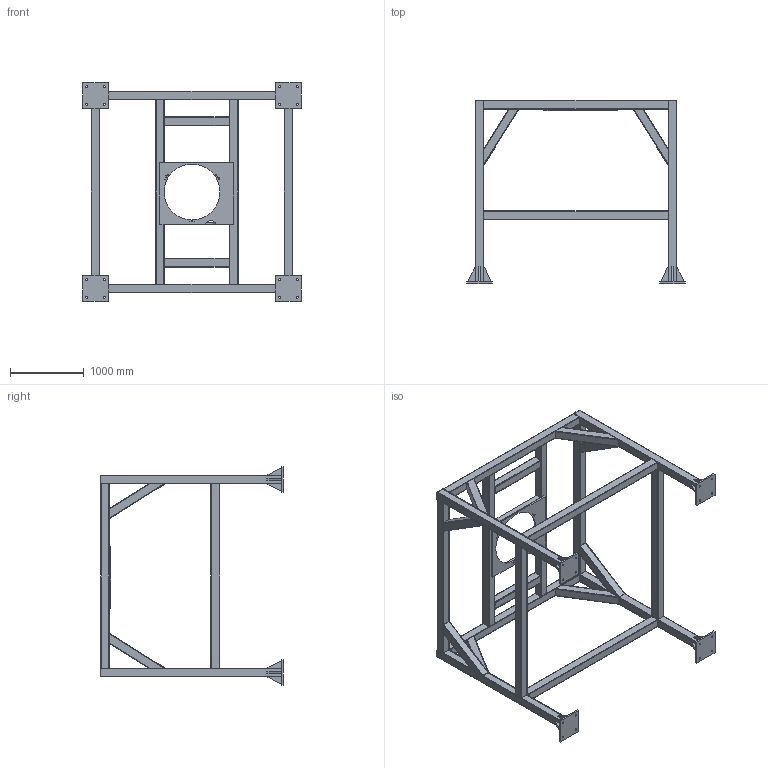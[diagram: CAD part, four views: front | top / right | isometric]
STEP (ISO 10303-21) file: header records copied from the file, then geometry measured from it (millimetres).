
FILE_DESCRIPTION (( 'STEP AP203' ), '1' );
FILE_NAME ('2200儂殤.STEP', '2025-07-22T01:39:15', ( '' ), ( '' ), 'SwSTEP 2.0', 'SolidWorks 2017', '' );
FILE_SCHEMA (( 'CONFIG_CONTROL_DESIGN' ));
Length unit declared in the file: millimetre
Products named in the file (1): 2200儂殤
Bounding box: 2970 x 2485 x 2970 mm (x, y, z)
Volume: 104080195.2 mm3; surface area: 41839806.1 mm2
Topology: 51 solids, 51 shells, 647 faces, 1639 edges, 1094 vertices
Faces by surface type: plane 388, cylinder 259
Entity records: 19604 total; most frequent: CARTESIAN_POINT 3813, ORIENTED_EDGE 3278, DIRECTION 3165, EDGE_CURVE 1639, VECTOR 1121, LINE 1121, VERTEX_POINT 1094, AXIS2_PLACEMENT_3D 1022
